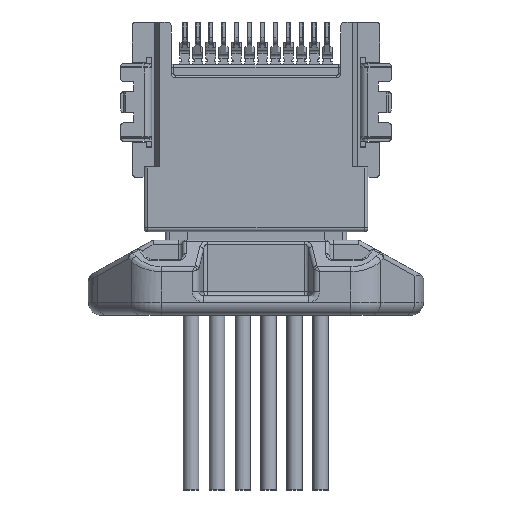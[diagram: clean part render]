
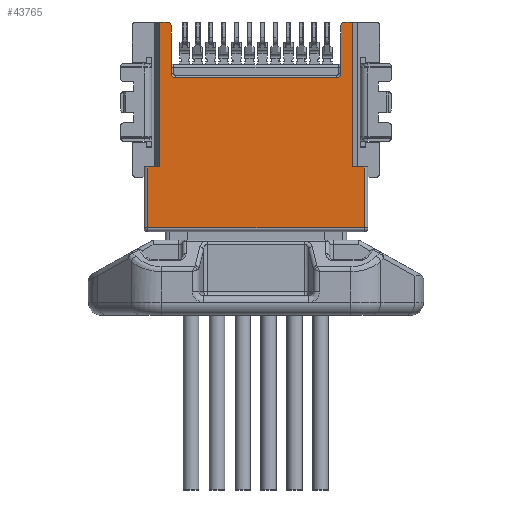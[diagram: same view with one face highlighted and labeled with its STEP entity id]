
A CAD part, front view. The second image highlights one B-rep face of the part: STEP entity #43765.
In plain terms, the highlighted planar face has unit normal (0, -1, 0).
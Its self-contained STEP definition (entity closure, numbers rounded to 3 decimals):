
#552 = VERTEX_POINT ( 'NONE', #31915 ) ;
#625 = EDGE_CURVE ( 'NONE', #9690, #41583, #18174, .T. ) ;
#1733 = DIRECTION ( 'NONE',  ( 0., 0., -1. ) ) ;
#1739 = CIRCLE ( 'NONE', #39185, 0.3 ) ;
#1750 = EDGE_CURVE ( 'NONE', #41583, #1842, #41397, .T. ) ;
#1842 = VERTEX_POINT ( 'NONE', #55360 ) ;
#2000 = VECTOR ( 'NONE', #2333, 1000. ) ;
#2050 = EDGE_CURVE ( 'NONE', #55689, #47319, #1739, .T. ) ;
#2333 = DIRECTION ( 'NONE',  ( 0., 0., -1. ) ) ;
#2611 = VECTOR ( 'NONE', #21324, 1000. ) ;
#2838 = EDGE_CURVE ( 'NONE', #1842, #42131, #54024, .T. ) ;
#2953 = DIRECTION ( 'NONE',  ( 1., 0., 0. ) ) ;
#3381 = CARTESIAN_POINT ( 'NONE',  ( -8.551, -4.853, 4.562 ) ) ;
#3958 = EDGE_CURVE ( 'NONE', #14012, #34803, #10525, .T. ) ;
#4370 = VECTOR ( 'NONE', #18852, 1000. ) ;
#4932 = VERTEX_POINT ( 'NONE', #32073 ) ;
#6508 = VECTOR ( 'NONE', #28504, 1000. ) ;
#6700 = VECTOR ( 'NONE', #18670, 1000. ) ;
#7652 = DIRECTION ( 'NONE',  ( 0., 1., 0. ) ) ;
#7822 = VERTEX_POINT ( 'NONE', #10575 ) ;
#7858 = CARTESIAN_POINT ( 'NONE',  ( -9.751, -4.853, 9.462 ) ) ;
#8226 = DIRECTION ( 'NONE',  ( 0., 0., 1. ) ) ;
#8394 = EDGE_CURVE ( 'NONE', #552, #7822, #22869, .T. ) ;
#8860 = ORIENTED_EDGE ( 'NONE', *, *, #33038, .T. ) ;
#9438 = CARTESIAN_POINT ( 'NONE',  ( 5.149, -4.853, 9.462 ) ) ;
#9530 = ORIENTED_EDGE ( 'NONE', *, *, #15018, .T. ) ;
#9690 = VERTEX_POINT ( 'NONE', #56929 ) ;
#10017 = ORIENTED_EDGE ( 'NONE', *, *, #10141, .T. ) ;
#10141 = EDGE_CURVE ( 'NONE', #57158, #43484, #15120, .T. ) ;
#10525 = LINE ( 'NONE', #18484, #32462 ) ;
#10575 = CARTESIAN_POINT ( 'NONE',  ( 6.049, -4.853, -7.038 ) ) ;
#10818 = VECTOR ( 'NONE', #48612, 1000. ) ;
#11190 = VECTOR ( 'NONE', #2953, 1000. ) ;
#11357 = ORIENTED_EDGE ( 'NONE', *, *, #2050, .T. ) ;
#11497 = ORIENTED_EDGE ( 'NONE', *, *, #42408, .F. ) ;
#11747 = CIRCLE ( 'NONE', #29521, 0.3 ) ;
#13064 = CARTESIAN_POINT ( 'NONE',  ( -9.151, -4.853, 8.562 ) ) ;
#13146 = CARTESIAN_POINT ( 'NONE',  ( 4.249, -4.853, 8.562 ) ) ;
#14012 = VERTEX_POINT ( 'NONE', #27029 ) ;
#14270 = CARTESIAN_POINT ( 'NONE',  ( 6.049, -4.853, -2.338 ) ) ;
#14582 = EDGE_LOOP ( 'NONE', ( #38459, #48811, #33649, #48114, #55791, #37809, #11497, #10017, #32022, #11357, #47112, #9530, #33935, #21861, #57097, #8860 ) ) ;
#15018 = EDGE_CURVE ( 'NONE', #4932, #42131, #49711, .T. ) ;
#15120 = CIRCLE ( 'NONE', #16060, 0.3 ) ;
#15777 = LINE ( 'NONE', #9438, #48028 ) ;
#16060 = AXIS2_PLACEMENT_3D ( 'NONE', #33877, #7652, #38325 ) ;
#17481 = DIRECTION ( 'NONE',  ( 0., 0., -1. ) ) ;
#17968 = EDGE_CURVE ( 'NONE', #34803, #30380, #15777, .T. ) ;
#18007 = DIRECTION ( 'NONE',  ( 0., 0., -1. ) ) ;
#18174 = LINE ( 'NONE', #28932, #6508 ) ;
#18481 = CARTESIAN_POINT ( 'NONE',  ( 4.249, -4.853, 4.562 ) ) ;
#18484 = CARTESIAN_POINT ( 'NONE',  ( -11.851, -4.853, 8.862 ) ) ;
#18552 = DIRECTION ( 'NONE',  ( 1., 0., 0. ) ) ;
#18670 = DIRECTION ( 'NONE',  ( 0., 0., 1. ) ) ;
#18852 = DIRECTION ( 'NONE',  ( 0., 0., 1. ) ) ;
#20261 = VECTOR ( 'NONE', #22851, 1000. ) ;
#20890 = CARTESIAN_POINT ( 'NONE',  ( 4.249, -4.853, 4.862 ) ) ;
#21324 = DIRECTION ( 'NONE',  ( 1., 0., 0. ) ) ;
#21414 = CARTESIAN_POINT ( 'NONE',  ( -8.851, -4.853, 4.862 ) ) ;
#21861 = ORIENTED_EDGE ( 'NONE', *, *, #1750, .F. ) ;
#22342 = EDGE_CURVE ( 'NONE', #55689, #43484, #54502, .T. ) ;
#22605 = CARTESIAN_POINT ( 'NONE',  ( 5.149, -4.853, -2.338 ) ) ;
#22851 = DIRECTION ( 'NONE',  ( 1., 0., 0. ) ) ;
#22869 = LINE ( 'NONE', #24899, #11190 ) ;
#22976 = CARTESIAN_POINT ( 'NONE',  ( -11.851, -4.853, 8.862 ) ) ;
#23744 = EDGE_CURVE ( 'NONE', #14012, #56281, #11747, .T. ) ;
#24183 = VECTOR ( 'NONE', #27696, 1000. ) ;
#24899 = CARTESIAN_POINT ( 'NONE',  ( 6.349, -4.853, -7.038 ) ) ;
#26432 = CARTESIAN_POINT ( 'NONE',  ( -10.351, -4.853, -7.338 ) ) ;
#27029 = CARTESIAN_POINT ( 'NONE',  ( 4.549, -4.853, 8.862 ) ) ;
#27433 = VERTEX_POINT ( 'NONE', #36723 ) ;
#27696 = DIRECTION ( 'NONE',  ( 1., 0., 0. ) ) ;
#28085 = DIRECTION ( 'NONE',  ( 0., -1., 0. ) ) ;
#28504 = DIRECTION ( 'NONE',  ( 1., 0., 0. ) ) ;
#28932 = CARTESIAN_POINT ( 'NONE',  ( -10.351, -4.853, -2.338 ) ) ;
#29521 = AXIS2_PLACEMENT_3D ( 'NONE', #54485, #28085, #1733 ) ;
#29743 = VECTOR ( 'NONE', #8226, 1000. ) ;
#30380 = VERTEX_POINT ( 'NONE', #22605 ) ;
#30901 = CARTESIAN_POINT ( 'NONE',  ( -8.851, -4.853, 4.562 ) ) ;
#31915 = CARTESIAN_POINT ( 'NONE',  ( -10.651, -4.853, -7.038 ) ) ;
#32022 = ORIENTED_EDGE ( 'NONE', *, *, #22342, .F. ) ;
#32073 = CARTESIAN_POINT ( 'NONE',  ( -8.851, -4.853, 8.562 ) ) ;
#32090 = AXIS2_PLACEMENT_3D ( 'NONE', #26432, #44239, #18007 ) ;
#32462 = VECTOR ( 'NONE', #18552, 1000. ) ;
#33038 = EDGE_CURVE ( 'NONE', #9690, #552, #37083, .T. ) ;
#33068 = FACE_OUTER_BOUND ( 'NONE', #14582, .T. ) ;
#33530 = CARTESIAN_POINT ( 'NONE',  ( 3.949, -4.853, 4.562 ) ) ;
#33649 = ORIENTED_EDGE ( 'NONE', *, *, #33703, .F. ) ;
#33703 = EDGE_CURVE ( 'NONE', #30380, #27433, #37693, .T. ) ;
#33877 = CARTESIAN_POINT ( 'NONE',  ( 3.949, -4.853, 4.862 ) ) ;
#33935 = ORIENTED_EDGE ( 'NONE', *, *, #2838, .F. ) ;
#34803 = VERTEX_POINT ( 'NONE', #51600 ) ;
#35004 = AXIS2_PLACEMENT_3D ( 'NONE', #13064, #43716, #17481 ) ;
#36723 = CARTESIAN_POINT ( 'NONE',  ( 6.049, -4.853, -2.338 ) ) ;
#37083 = LINE ( 'NONE', #55105, #2000 ) ;
#37672 = EDGE_CURVE ( 'NONE', #4932, #47319, #47179, .T. ) ;
#37693 = LINE ( 'NONE', #50955, #2611 ) ;
#37772 = EDGE_CURVE ( 'NONE', #7822, #27433, #56246, .T. ) ;
#37809 = ORIENTED_EDGE ( 'NONE', *, *, #23744, .T. ) ;
#38052 = CARTESIAN_POINT ( 'NONE',  ( -9.151, -4.853, 8.862 ) ) ;
#38325 = DIRECTION ( 'NONE',  ( 0., 0., -1. ) ) ;
#38459 = ORIENTED_EDGE ( 'NONE', *, *, #8394, .T. ) ;
#39185 = AXIS2_PLACEMENT_3D ( 'NONE', #49190, #49177, #49124 ) ;
#39809 = PLANE ( 'NONE',  #32090 ) ;
#41397 = LINE ( 'NONE', #7858, #29743 ) ;
#41583 = VERTEX_POINT ( 'NONE', #54760 ) ;
#42131 = VERTEX_POINT ( 'NONE', #38052 ) ;
#42408 = EDGE_CURVE ( 'NONE', #57158, #56281, #51197, .T. ) ;
#43484 = VERTEX_POINT ( 'NONE', #33530 ) ;
#43716 = DIRECTION ( 'NONE',  ( 0., -1., 0. ) ) ;
#43765 = ADVANCED_FACE ( 'NONE', ( #33068 ), #39809, .T. ) ;
#44239 = DIRECTION ( 'NONE',  ( 0., -1., 0. ) ) ;
#45092 = CARTESIAN_POINT ( 'NONE',  ( -10.351, -4.853, 4.562 ) ) ;
#47112 = ORIENTED_EDGE ( 'NONE', *, *, #37672, .F. ) ;
#47179 = LINE ( 'NONE', #30901, #10818 ) ;
#47319 = VERTEX_POINT ( 'NONE', #21414 ) ;
#48028 = VECTOR ( 'NONE', #53658, 1000. ) ;
#48114 = ORIENTED_EDGE ( 'NONE', *, *, #17968, .F. ) ;
#48612 = DIRECTION ( 'NONE',  ( 0., 0., -1. ) ) ;
#48811 = ORIENTED_EDGE ( 'NONE', *, *, #37772, .T. ) ;
#49124 = DIRECTION ( 'NONE',  ( 0., 0., -1. ) ) ;
#49177 = DIRECTION ( 'NONE',  ( 0., 1., 0. ) ) ;
#49190 = CARTESIAN_POINT ( 'NONE',  ( -8.551, -4.853, 4.862 ) ) ;
#49711 = CIRCLE ( 'NONE', #35004, 0.3 ) ;
#50955 = CARTESIAN_POINT ( 'NONE',  ( 5.749, -4.853, -2.338 ) ) ;
#51197 = LINE ( 'NONE', #18481, #4370 ) ;
#51600 = CARTESIAN_POINT ( 'NONE',  ( 5.149, -4.853, 8.862 ) ) ;
#53658 = DIRECTION ( 'NONE',  ( 0., 0., -1. ) ) ;
#54024 = LINE ( 'NONE', #22976, #20261 ) ;
#54485 = CARTESIAN_POINT ( 'NONE',  ( 4.549, -4.853, 8.562 ) ) ;
#54502 = LINE ( 'NONE', #45092, #24183 ) ;
#54760 = CARTESIAN_POINT ( 'NONE',  ( -9.751, -4.853, -2.338 ) ) ;
#55105 = CARTESIAN_POINT ( 'NONE',  ( -10.651, -4.853, -7.338 ) ) ;
#55360 = CARTESIAN_POINT ( 'NONE',  ( -9.751, -4.853, 8.862 ) ) ;
#55689 = VERTEX_POINT ( 'NONE', #3381 ) ;
#55791 = ORIENTED_EDGE ( 'NONE', *, *, #3958, .F. ) ;
#56246 = LINE ( 'NONE', #14270, #6700 ) ;
#56281 = VERTEX_POINT ( 'NONE', #13146 ) ;
#56929 = CARTESIAN_POINT ( 'NONE',  ( -10.651, -4.853, -2.338 ) ) ;
#57097 = ORIENTED_EDGE ( 'NONE', *, *, #625, .F. ) ;
#57158 = VERTEX_POINT ( 'NONE', #20890 ) ;
